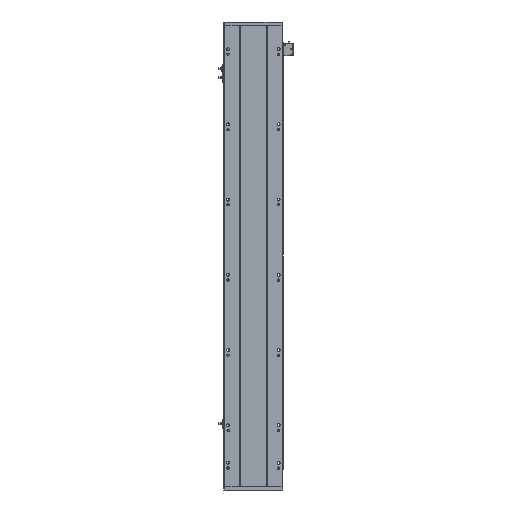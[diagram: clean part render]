
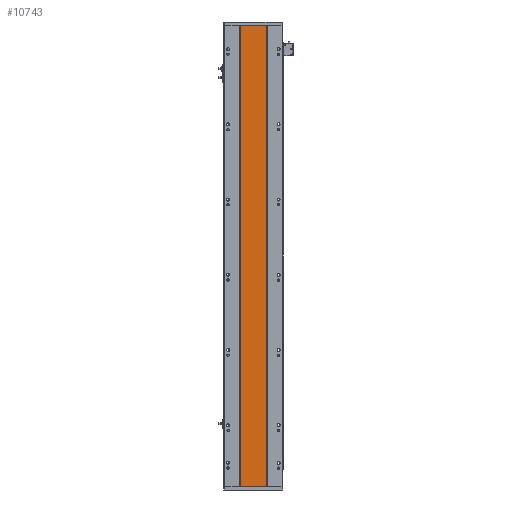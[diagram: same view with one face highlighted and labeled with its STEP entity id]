
A CAD part, front view. The second image highlights one B-rep face of the part: STEP entity #10743.
In plain terms, the highlighted planar face has unit normal (0, -1, 0).
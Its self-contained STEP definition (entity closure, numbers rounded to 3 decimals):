
#687 = DIRECTION ( 'NONE',  ( -1., 0., 0. ) ) ;
#1967 = VERTEX_POINT ( 'NONE', #32448 ) ;
#4857 = ORIENTED_EDGE ( 'NONE', *, *, #26838, .F. ) ;
#6174 = ORIENTED_EDGE ( 'NONE', *, *, #26059, .T. ) ;
#7570 = CARTESIAN_POINT ( 'NONE',  ( 205.288, 16.9, 1324. ) ) ;
#8057 = DIRECTION ( 'NONE',  ( 1., 0., 0. ) ) ;
#8514 = VECTOR ( 'NONE', #30097, 1000. ) ;
#8834 = CARTESIAN_POINT ( 'NONE',  ( 205.288, 16.9, 0. ) ) ;
#9625 = VERTEX_POINT ( 'NONE', #7570 ) ;
#10743 = ADVANCED_FACE ( 'NONE', ( #11472 ), #15599, .F. ) ;
#11472 = FACE_OUTER_BOUND ( 'NONE', #16808, .T. ) ;
#11473 = VECTOR ( 'NONE', #8057, 1000. ) ;
#13126 = LINE ( 'NONE', #30891, #11473 ) ;
#13977 = ORIENTED_EDGE ( 'NONE', *, *, #21583, .F. ) ;
#14841 = AXIS2_PLACEMENT_3D ( 'NONE', #26628, #26863, #687 ) ;
#15549 = LINE ( 'NONE', #29170, #8514 ) ;
#15599 = PLANE ( 'NONE',  #14841 ) ;
#15804 = VERTEX_POINT ( 'NONE', #21165 ) ;
#16808 = EDGE_LOOP ( 'NONE', ( #6174, #4857, #13977, #17378 ) ) ;
#17378 = ORIENTED_EDGE ( 'NONE', *, *, #29380, .T. ) ;
#18956 = VERTEX_POINT ( 'NONE', #29403 ) ;
#19020 = DIRECTION ( 'NONE',  ( 1., 0., 0. ) ) ;
#19454 = LINE ( 'NONE', #34407, #34527 ) ;
#21165 = CARTESIAN_POINT ( 'NONE',  ( 205.288, 16.9, 0. ) ) ;
#21297 = DIRECTION ( 'NONE',  ( 0., 0., -1. ) ) ;
#21583 = EDGE_CURVE ( 'NONE', #1967, #9625, #13126, .T. ) ;
#23660 = LINE ( 'NONE', #8834, #32055 ) ;
#26059 = EDGE_CURVE ( 'NONE', #18956, #15804, #23660, .T. ) ;
#26628 = CARTESIAN_POINT ( 'NONE',  ( 205.288, 16.9, 1324. ) ) ;
#26838 = EDGE_CURVE ( 'NONE', #9625, #15804, #19454, .T. ) ;
#26863 = DIRECTION ( 'NONE',  ( 0., 1., 0. ) ) ;
#29170 = CARTESIAN_POINT ( 'NONE',  ( 129.288, 16.9, 1324. ) ) ;
#29380 = EDGE_CURVE ( 'NONE', #1967, #18956, #15549, .T. ) ;
#29403 = CARTESIAN_POINT ( 'NONE',  ( 129.288, 16.9, 0. ) ) ;
#30097 = DIRECTION ( 'NONE',  ( 0., 0., -1. ) ) ;
#30891 = CARTESIAN_POINT ( 'NONE',  ( 129.288, 16.9, 1324. ) ) ;
#32055 = VECTOR ( 'NONE', #19020, 1000. ) ;
#32448 = CARTESIAN_POINT ( 'NONE',  ( 129.288, 16.9, 1324. ) ) ;
#34407 = CARTESIAN_POINT ( 'NONE',  ( 205.288, 16.9, 1324. ) ) ;
#34527 = VECTOR ( 'NONE', #21297, 1000. ) ;
